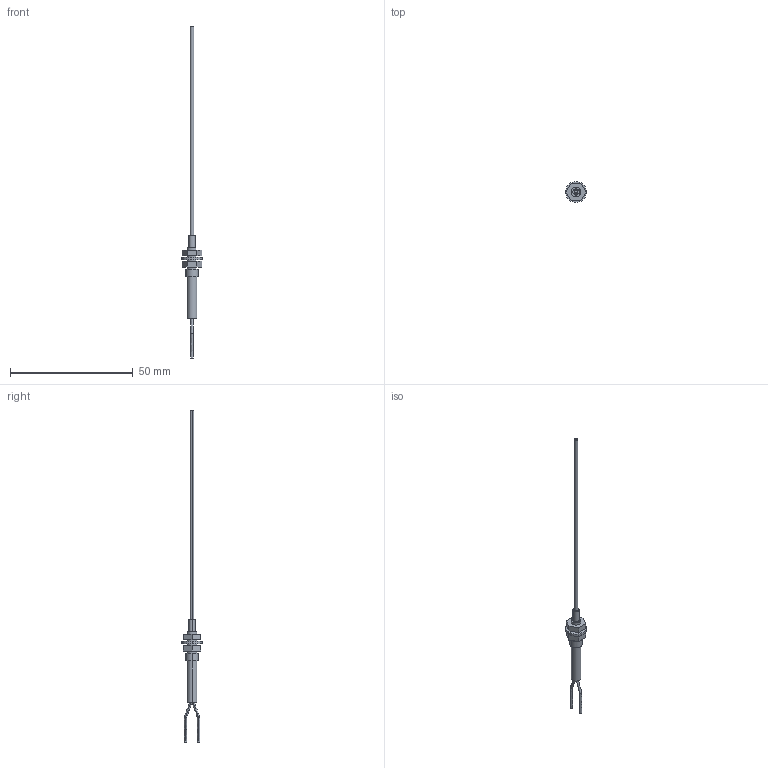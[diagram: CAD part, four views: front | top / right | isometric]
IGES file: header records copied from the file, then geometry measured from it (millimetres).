
Start section: SolidWorks IGES FILE using analytic representation for surfaces
Global section: file name: C:\Documents and Settings\yk0651\デスクトップ\3D_catalog_050904\0_IGES\FD-NFM2S.IGS; native system: SolidWorks 2004 by SolidWorks Corporation; preprocessor: Version 5.3; author: yk0651; date: 050904.190943; units: millimetre
Bounding box: 8.5 x 8.5 x 135 mm (x, y, z)
Volume: 759.9 mm3; surface area: 1369.3 mm2
Topology: 4 solids, 4 shells, 55 faces, 118 edges, 77 vertices
Faces by surface type: plane 28, revolution 19, bspline 8
